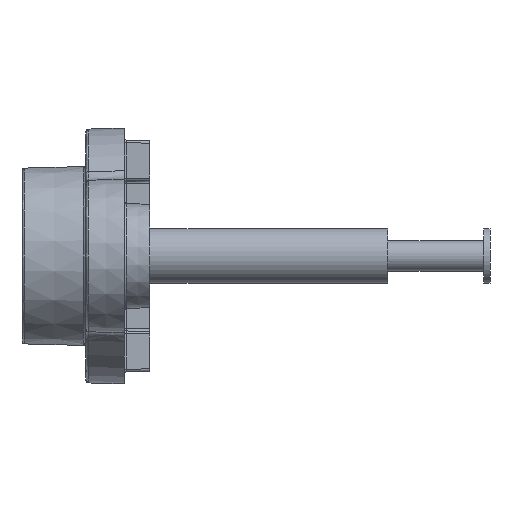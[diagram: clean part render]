
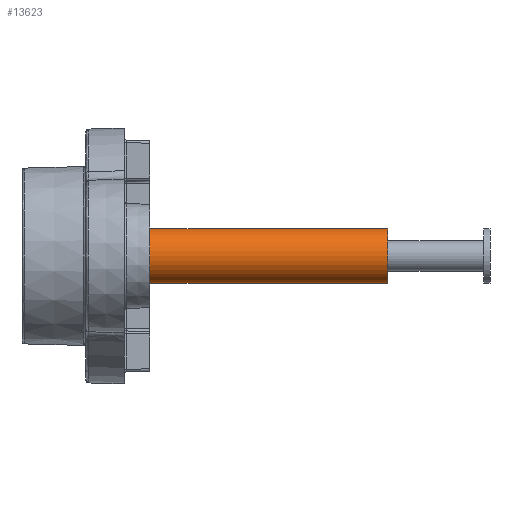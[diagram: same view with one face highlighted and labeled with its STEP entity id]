
A CAD part, left-side view. The second image highlights one B-rep face of the part: STEP entity #13623.
In plain terms, the highlighted cylindrical face has radius 1.075 mm (diameter 2.15 mm), a partial arc.
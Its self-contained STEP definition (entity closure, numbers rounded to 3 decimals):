
#462 = ORIENTED_EDGE ( 'NONE', *, *, #3174, .F. ) ;
#707 = DIRECTION ( 'NONE',  ( 0., 0., 1. ) ) ;
#960 = ORIENTED_EDGE ( 'NONE', *, *, #8533, .T. ) ;
#1660 = DIRECTION ( 'NONE',  ( 0., 0., 1. ) ) ;
#2164 = DIRECTION ( 'NONE',  ( 0., 0., 1. ) ) ;
#2212 = ORIENTED_EDGE ( 'NONE', *, *, #4279, .F. ) ;
#2897 = DIRECTION ( 'NONE',  ( 0., 0., 1. ) ) ;
#2907 = CIRCLE ( 'NONE', #10434, 1.075 ) ;
#3174 = EDGE_CURVE ( 'NONE', #13028, #10568, #6688, .T. ) ;
#3414 = CARTESIAN_POINT ( 'NONE',  ( 0., 1.075, 9. ) ) ;
#3541 = DIRECTION ( 'NONE',  ( 0., 0., 1. ) ) ;
#3870 = CARTESIAN_POINT ( 'NONE',  ( 0., -1.075, -5. ) ) ;
#3983 = EDGE_LOOP ( 'NONE', ( #2212, #960, #10446, #462 ) ) ;
#4055 = AXIS2_PLACEMENT_3D ( 'NONE', #6032, #707, #6926 ) ;
#4279 = EDGE_CURVE ( 'NONE', #8943, #13028, #12865, .T. ) ;
#4564 = VERTEX_POINT ( 'NONE', #3870 ) ;
#4860 = CARTESIAN_POINT ( 'NONE',  ( 0., 1.075, 4.3 ) ) ;
#4943 = CYLINDRICAL_SURFACE ( 'NONE', #6060, 1.075 ) ;
#6032 = CARTESIAN_POINT ( 'NONE',  ( 0., 0., 4.3 ) ) ;
#6060 = AXIS2_PLACEMENT_3D ( 'NONE', #6241, #2164, #11631 ) ;
#6241 = CARTESIAN_POINT ( 'NONE',  ( 0., 0., 9. ) ) ;
#6510 = VECTOR ( 'NONE', #3541, 1000. ) ;
#6688 = CIRCLE ( 'NONE', #4055, 1.075 ) ;
#6926 = DIRECTION ( 'NONE',  ( 0., -1., 0. ) ) ;
#7074 = FACE_OUTER_BOUND ( 'NONE', #3983, .T. ) ;
#7757 = DIRECTION ( 'NONE',  ( 0., -1., 0. ) ) ;
#8533 = EDGE_CURVE ( 'NONE', #8943, #4564, #2907, .T. ) ;
#8943 = VERTEX_POINT ( 'NONE', #13399 ) ;
#10434 = AXIS2_PLACEMENT_3D ( 'NONE', #12161, #1660, #7757 ) ;
#10446 = ORIENTED_EDGE ( 'NONE', *, *, #10968, .T. ) ;
#10568 = VERTEX_POINT ( 'NONE', #13130 ) ;
#10869 = VECTOR ( 'NONE', #2897, 1000. ) ;
#10968 = EDGE_CURVE ( 'NONE', #4564, #10568, #13398, .T. ) ;
#11246 = CARTESIAN_POINT ( 'NONE',  ( 0., -1.075, 9. ) ) ;
#11631 = DIRECTION ( 'NONE',  ( 0., -1., 0. ) ) ;
#12161 = CARTESIAN_POINT ( 'NONE',  ( 0., 0., -5. ) ) ;
#12865 = LINE ( 'NONE', #3414, #6510 ) ;
#13028 = VERTEX_POINT ( 'NONE', #4860 ) ;
#13130 = CARTESIAN_POINT ( 'NONE',  ( 0., -1.075, 4.3 ) ) ;
#13398 = LINE ( 'NONE', #11246, #10869 ) ;
#13399 = CARTESIAN_POINT ( 'NONE',  ( 0., 1.075, -5. ) ) ;
#13623 = ADVANCED_FACE ( 'NONE', ( #7074 ), #4943, .T. ) ;
